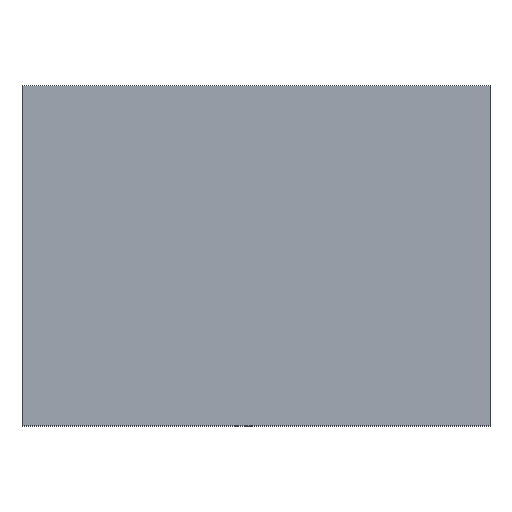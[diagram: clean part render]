
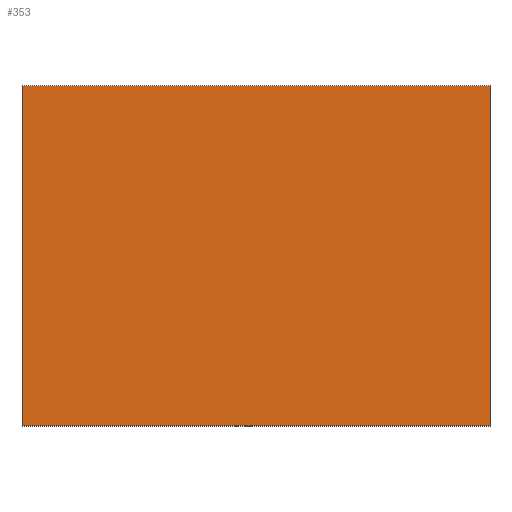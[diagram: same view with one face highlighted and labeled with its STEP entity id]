
A CAD part, top view. The second image highlights one B-rep face of the part: STEP entity #353.
In plain terms, the highlighted planar face has unit normal (0, 0, 1).
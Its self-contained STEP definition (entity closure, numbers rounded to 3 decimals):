
#39 = VERTEX_POINT('',#40);
#40 = CARTESIAN_POINT('',(-19.89,14.35,11.4));
#47 = PLANE('',#48);
#48 = AXIS2_PLACEMENT_3D('',#49,#50,#51);
#49 = CARTESIAN_POINT('',(-19.89,14.35,0.));
#50 = DIRECTION('',(0.,1.,0.));
#51 = DIRECTION('',(1.,0.,0.));
#59 = PLANE('',#60);
#60 = AXIS2_PLACEMENT_3D('',#61,#62,#63);
#61 = CARTESIAN_POINT('',(-19.89,-1.65,0.));
#62 = DIRECTION('',(-1.,0.,0.));
#63 = DIRECTION('',(0.,1.,0.));
#71 = EDGE_CURVE('',#39,#72,#74,.T.);
#72 = VERTEX_POINT('',#73);
#73 = CARTESIAN_POINT('',(2.11,14.35,11.4));
#74 = SURFACE_CURVE('',#75,(#79,#86),.PCURVE_S1.);
#75 = LINE('',#76,#77);
#76 = CARTESIAN_POINT('',(-19.89,14.35,11.4));
#77 = VECTOR('',#78,1.);
#78 = DIRECTION('',(1.,0.,0.));
#79 = PCURVE('',#47,#80);
#80 = DEFINITIONAL_REPRESENTATION('',(#81),#85);
#81 = LINE('',#82,#83);
#82 = CARTESIAN_POINT('',(0.,-11.4));
#83 = VECTOR('',#84,1.);
#84 = DIRECTION('',(1.,0.));
#85 = ( GEOMETRIC_REPRESENTATION_CONTEXT(2) 
PARAMETRIC_REPRESENTATION_CONTEXT() REPRESENTATION_CONTEXT('2D SPACE',''
  ) );
#86 = PCURVE('',#87,#92);
#87 = PLANE('',#88);
#88 = AXIS2_PLACEMENT_3D('',#89,#90,#91);
#89 = CARTESIAN_POINT('',(-8.89,6.35,11.4));
#90 = DIRECTION('',(-0.,0.,-1.));
#91 = DIRECTION('',(0.,-1.,0.));
#92 = DEFINITIONAL_REPRESENTATION('',(#93),#97);
#93 = LINE('',#94,#95);
#94 = CARTESIAN_POINT('',(-8.,11.));
#95 = VECTOR('',#96,1.);
#96 = DIRECTION('',(0.,-1.));
#97 = ( GEOMETRIC_REPRESENTATION_CONTEXT(2) 
PARAMETRIC_REPRESENTATION_CONTEXT() REPRESENTATION_CONTEXT('2D SPACE',''
  ) );
#115 = PLANE('',#116);
#116 = AXIS2_PLACEMENT_3D('',#117,#118,#119);
#117 = CARTESIAN_POINT('',(2.11,14.35,0.));
#118 = DIRECTION('',(1.,0.,-0.));
#119 = DIRECTION('',(0.,-1.,0.));
#157 = EDGE_CURVE('',#72,#158,#160,.T.);
#158 = VERTEX_POINT('',#159);
#159 = CARTESIAN_POINT('',(2.11,-1.65,11.4));
#160 = SURFACE_CURVE('',#161,(#165,#172),.PCURVE_S1.);
#161 = LINE('',#162,#163);
#162 = CARTESIAN_POINT('',(2.11,14.35,11.4));
#163 = VECTOR('',#164,1.);
#164 = DIRECTION('',(0.,-1.,0.));
#165 = PCURVE('',#115,#166);
#166 = DEFINITIONAL_REPRESENTATION('',(#167),#171);
#167 = LINE('',#168,#169);
#168 = CARTESIAN_POINT('',(0.,-11.4));
#169 = VECTOR('',#170,1.);
#170 = DIRECTION('',(1.,0.));
#171 = ( GEOMETRIC_REPRESENTATION_CONTEXT(2) 
PARAMETRIC_REPRESENTATION_CONTEXT() REPRESENTATION_CONTEXT('2D SPACE',''
  ) );
#172 = PCURVE('',#87,#173);
#173 = DEFINITIONAL_REPRESENTATION('',(#174),#178);
#174 = LINE('',#175,#176);
#175 = CARTESIAN_POINT('',(-8.,-11.));
#176 = VECTOR('',#177,1.);
#177 = DIRECTION('',(1.,0.));
#178 = ( GEOMETRIC_REPRESENTATION_CONTEXT(2) 
PARAMETRIC_REPRESENTATION_CONTEXT() REPRESENTATION_CONTEXT('2D SPACE',''
  ) );
#196 = PLANE('',#197);
#197 = AXIS2_PLACEMENT_3D('',#198,#199,#200);
#198 = CARTESIAN_POINT('',(2.11,-1.65,0.));
#199 = DIRECTION('',(0.,-1.,0.));
#200 = DIRECTION('',(-1.,0.,0.));
#233 = EDGE_CURVE('',#158,#234,#236,.T.);
#234 = VERTEX_POINT('',#235);
#235 = CARTESIAN_POINT('',(-19.89,-1.65,11.4));
#236 = SURFACE_CURVE('',#237,(#241,#248),.PCURVE_S1.);
#237 = LINE('',#238,#239);
#238 = CARTESIAN_POINT('',(2.11,-1.65,11.4));
#239 = VECTOR('',#240,1.);
#240 = DIRECTION('',(-1.,0.,0.));
#241 = PCURVE('',#196,#242);
#242 = DEFINITIONAL_REPRESENTATION('',(#243),#247);
#243 = LINE('',#244,#245);
#244 = CARTESIAN_POINT('',(0.,-11.4));
#245 = VECTOR('',#246,1.);
#246 = DIRECTION('',(1.,0.));
#247 = ( GEOMETRIC_REPRESENTATION_CONTEXT(2) 
PARAMETRIC_REPRESENTATION_CONTEXT() REPRESENTATION_CONTEXT('2D SPACE',''
  ) );
#248 = PCURVE('',#87,#249);
#249 = DEFINITIONAL_REPRESENTATION('',(#250),#254);
#250 = LINE('',#251,#252);
#251 = CARTESIAN_POINT('',(8.,-11.));
#252 = VECTOR('',#253,1.);
#253 = DIRECTION('',(0.,1.));
#254 = ( GEOMETRIC_REPRESENTATION_CONTEXT(2) 
PARAMETRIC_REPRESENTATION_CONTEXT() REPRESENTATION_CONTEXT('2D SPACE',''
  ) );
#304 = EDGE_CURVE('',#234,#39,#305,.T.);
#305 = SURFACE_CURVE('',#306,(#310,#317),.PCURVE_S1.);
#306 = LINE('',#307,#308);
#307 = CARTESIAN_POINT('',(-19.89,-1.65,11.4));
#308 = VECTOR('',#309,1.);
#309 = DIRECTION('',(0.,1.,0.));
#310 = PCURVE('',#59,#311);
#311 = DEFINITIONAL_REPRESENTATION('',(#312),#316);
#312 = LINE('',#313,#314);
#313 = CARTESIAN_POINT('',(0.,-11.4));
#314 = VECTOR('',#315,1.);
#315 = DIRECTION('',(1.,0.));
#316 = ( GEOMETRIC_REPRESENTATION_CONTEXT(2) 
PARAMETRIC_REPRESENTATION_CONTEXT() REPRESENTATION_CONTEXT('2D SPACE',''
  ) );
#317 = PCURVE('',#87,#318);
#318 = DEFINITIONAL_REPRESENTATION('',(#319),#323);
#319 = LINE('',#320,#321);
#320 = CARTESIAN_POINT('',(8.,11.));
#321 = VECTOR('',#322,1.);
#322 = DIRECTION('',(-1.,0.));
#323 = ( GEOMETRIC_REPRESENTATION_CONTEXT(2) 
PARAMETRIC_REPRESENTATION_CONTEXT() REPRESENTATION_CONTEXT('2D SPACE',''
  ) );
#353 = ADVANCED_FACE('',(#354),#87,.F.);
#354 = FACE_BOUND('',#355,.F.);
#355 = EDGE_LOOP('',(#356,#357,#358,#359));
#356 = ORIENTED_EDGE('',*,*,#71,.T.);
#357 = ORIENTED_EDGE('',*,*,#157,.T.);
#358 = ORIENTED_EDGE('',*,*,#233,.T.);
#359 = ORIENTED_EDGE('',*,*,#304,.T.);
